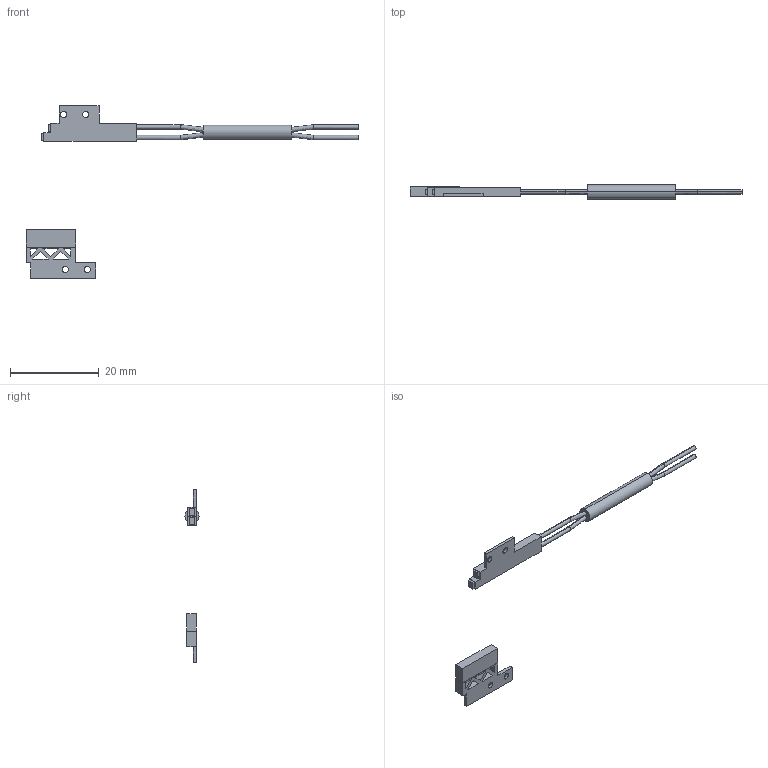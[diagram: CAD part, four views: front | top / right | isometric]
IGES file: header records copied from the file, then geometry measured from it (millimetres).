
Start section: SolidWorks IGES FILE using analytic representation for surfaces
Global section: file name: C:\Documents and Settings\yk0651\デスクトップ\3D_catalog_050904\0_IGES\FR-KV1.IGS; native system: SolidWorks 2004 by SolidWorks Corporation; preprocessor: Version 5.3; author: yk0651; date: 050904.223829; units: millimetre
Bounding box: 75 x 3.2 x 39 mm (x, y, z)
Volume: 587.1 mm3; surface area: 1173.1 mm2
Topology: 2 solids, 2 shells, 99 faces, 247 edges, 161 vertices
Faces by surface type: plane 67, revolution 32
